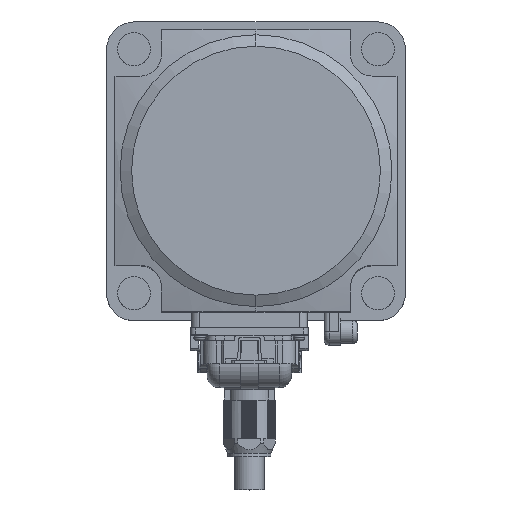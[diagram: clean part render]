
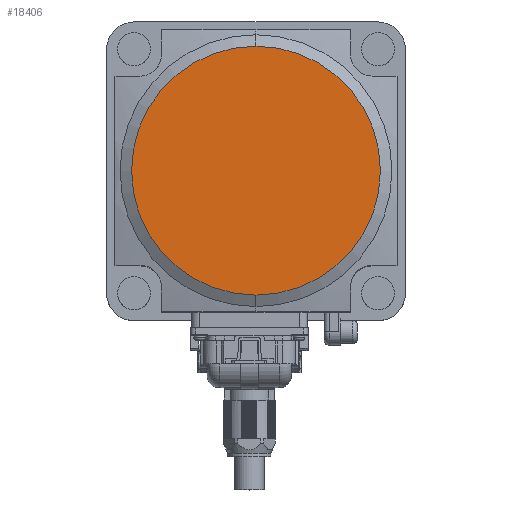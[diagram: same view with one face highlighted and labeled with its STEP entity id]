
A CAD part, top view. The second image highlights one B-rep face of the part: STEP entity #18406.
In plain terms, the highlighted planar face has unit normal (0, 0, 1).
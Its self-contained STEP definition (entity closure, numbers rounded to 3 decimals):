
#1628 = DIRECTION ( 'NONE',  ( 0., 0., -1. ) ) ;
#2952 = FACE_OUTER_BOUND ( 'NONE', #17358, .T. ) ;
#3386 = CARTESIAN_POINT ( 'NONE',  ( 0., 0., 125.5 ) ) ;
#3567 = VERTEX_POINT ( 'NONE', #12940 ) ;
#5742 = DIRECTION ( 'NONE',  ( 0., 1., 0. ) ) ;
#6496 = ORIENTED_EDGE ( 'NONE', *, *, #17976, .F. ) ;
#6954 = AXIS2_PLACEMENT_3D ( 'NONE', #17067, #1628, #18585 ) ;
#7805 = EDGE_CURVE ( 'NONE', #13180, #3567, #12543, .T. ) ;
#12543 = CIRCLE ( 'NONE', #19048, 37.5 ) ;
#12940 = CARTESIAN_POINT ( 'NONE',  ( 0., -37.5, 125.5 ) ) ;
#13180 = VERTEX_POINT ( 'NONE', #13909 ) ;
#13409 = AXIS2_PLACEMENT_3D ( 'NONE', #3386, #15760, #19916 ) ;
#13740 = CIRCLE ( 'NONE', #13409, 37.5 ) ;
#13909 = CARTESIAN_POINT ( 'NONE',  ( 0., 37.5, 125.5 ) ) ;
#14284 = ORIENTED_EDGE ( 'NONE', *, *, #7805, .F. ) ;
#15760 = DIRECTION ( 'NONE',  ( 0., 0., -1. ) ) ;
#16913 = CARTESIAN_POINT ( 'NONE',  ( 0., 0., 125.5 ) ) ;
#17067 = CARTESIAN_POINT ( 'NONE',  ( 42.5, -42.5, 125.5 ) ) ;
#17358 = EDGE_LOOP ( 'NONE', ( #14284, #6496 ) ) ;
#17976 = EDGE_CURVE ( 'NONE', #3567, #13180, #13740, .T. ) ;
#18406 = ADVANCED_FACE ( 'NONE', ( #2952 ), #19890, .F. ) ;
#18585 = DIRECTION ( 'NONE',  ( -1., 0., 0. ) ) ;
#19048 = AXIS2_PLACEMENT_3D ( 'NONE', #16913, #19842, #5742 ) ;
#19842 = DIRECTION ( 'NONE',  ( 0., 0., -1. ) ) ;
#19890 = PLANE ( 'NONE',  #6954 ) ;
#19916 = DIRECTION ( 'NONE',  ( 0., 1., 0. ) ) ;
